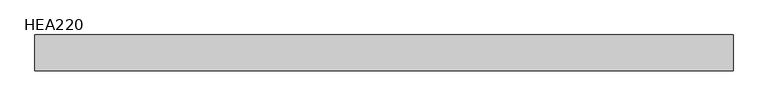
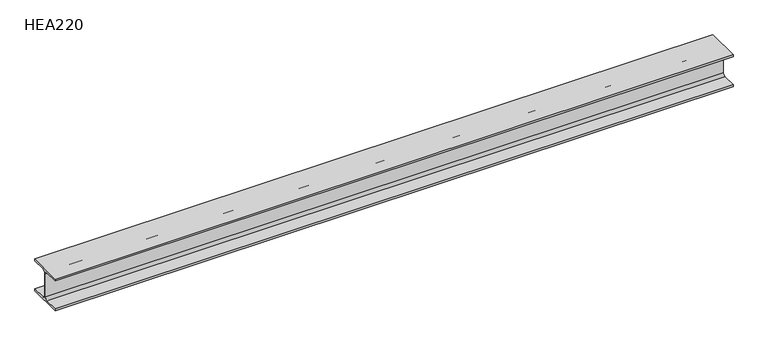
"""IFC4 building model written with IfcOpenShell, lengths in millimetres: beam geometry, HE-A : HEA220."""

from ifc_helpers import new_model, si_unit, point, frame, frame_2d, origin, place, context, project, spatial, polyline, circle_curve, trimmed, segment, composite_curve, outline, extrude, source, transform, mapped, element, save


def hea220_609f1b24(model_context):
    return source(origin(), model_context, "Body", "SweptSolid", [
        extrude(outline(composite_curve([segment(polyline([(110.0, -94.0), (110.0, -105.0), (-110.0, -105.0), (-110.0, -94.0), (-21.5, -94.0)]), True, "CONTINUOUS"), segment(trimmed(circle_curve(frame_2d((-21.5, -76.0)), 18.0), [point((-21.5, -94.0))], [point((-3.5, -76.0))], True, "CARTESIAN"), True, "CONTINUOUS"), segment(polyline([(-3.5, -76.0), (-3.5, 76.0)]), True, "CONTINUOUS"), segment(trimmed(circle_curve(frame_2d((-21.5, 76.0)), 18.0), [point((-3.5, 76.0))], [point((-21.5, 94.0))], True, "CARTESIAN"), True, "CONTINUOUS"), segment(polyline([(-21.5, 94.0), (-110.0, 94.0), (-110.0, 105.0), (110.0, 105.0), (110.0, 94.0), (21.5, 94.0)]), True, "CONTINUOUS"), segment(trimmed(circle_curve(frame_2d((21.5, 76.0)), 18.0), [point((21.5, 94.0))], [point((3.5, 76.0))], True, "CARTESIAN"), True, "CONTINUOUS"), segment(polyline([(3.5, 76.0), (3.5, -76.0)]), True, "CONTINUOUS"), segment(trimmed(circle_curve(frame_2d((21.5, -76.0)), 18.0), [point((3.5, -76.0))], [point((21.5, -94.0))], True, "CARTESIAN"), True, "CONTINUOUS"), segment(polyline([(21.5, -94.0), (110.0, -94.0)]), True, "CONTINUOUS")], self_intersect=False)), frame((-2130.3, 0.0, 0.0), z_axis=(1.0, 0.0, 0.0), x_axis=(0.0, 1.0, 0.0)), (0.0, 0.0, 1.0), 4260.6),
    ])


if __name__ == "__main__":
    model = new_model("IFC4")
    model_context = context("Model", 3, world=origin())
    ifc_project = project(units=[si_unit("LENGTHUNIT", "METRE", prefix="MILLI")], contexts=[model_context])
    site = spatial("IfcSite", under=ifc_project)
    building = spatial("IfcBuilding", under=site)
    placement = place(None, origin())
    hea220_shape = hea220_609f1b24(model_context)
    element("IfcBeam", 1, ObjectType="HE-A : HEA220", at=placement, inside=building, context=model_context, shape_type="MappedRepresentation", body=[
        mapped(hea220_shape, transform((0.0, 0.0, 0.0), x_axis=(1.0, 0.0, 0.0), y_axis=(0.0, 1.0, 0.0), z_axis=(0.0, 0.0, 1.0))),
    ])
    save(model, "model.ifc")
